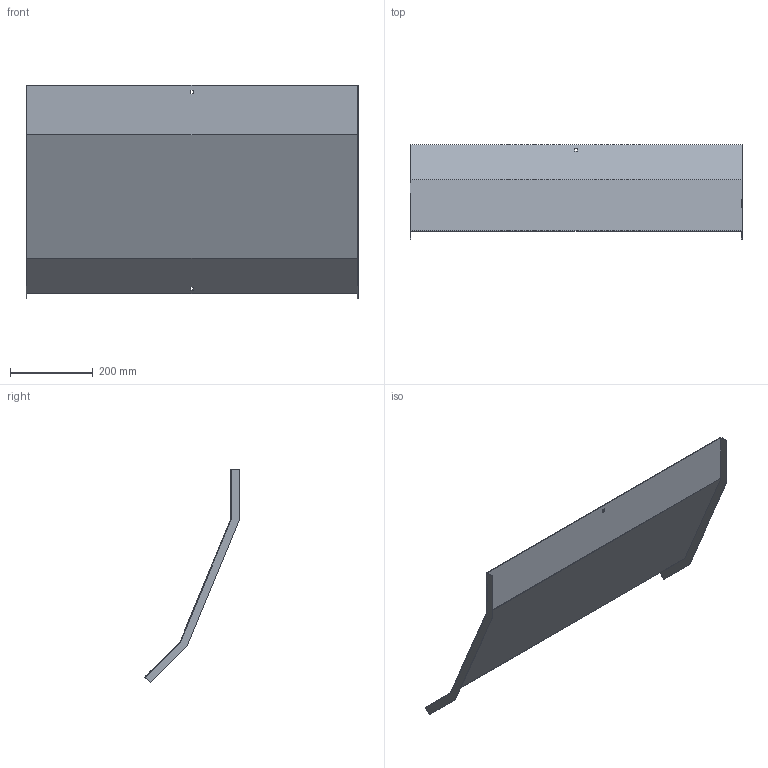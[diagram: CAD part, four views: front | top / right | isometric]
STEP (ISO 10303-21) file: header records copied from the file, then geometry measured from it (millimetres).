
FILE_DESCRIPTION (( 'STEP AP214' ), '1' );
FILE_NAME ('31N5R800_H150.step', '2025-02-21T14:28:53', ( '' ), ( '' ), 'SwSTEP 2.0', 'SolidWorks 2023', '' );
FILE_SCHEMA (( 'AUTOMOTIVE_DESIGN' ));
Length unit declared in the file: millimetre
Products named in the file (1): 31N5R800_H150
Bounding box: 803 x 228.46 x 517.41 mm (x, y, z)
Volume: 710398 mm3; surface area: 951545.2 mm2
Topology: 1 solids, 1 shells, 26 faces, 72 edges, 48 vertices
Faces by surface type: plane 26
Entity records: 847 total; most frequent: CARTESIAN_POINT 147, ORIENTED_EDGE 144, DIRECTION 126, VECTOR 72, LINE 72, EDGE_CURVE 72, VERTEX_POINT 48, EDGE_LOOP 30
